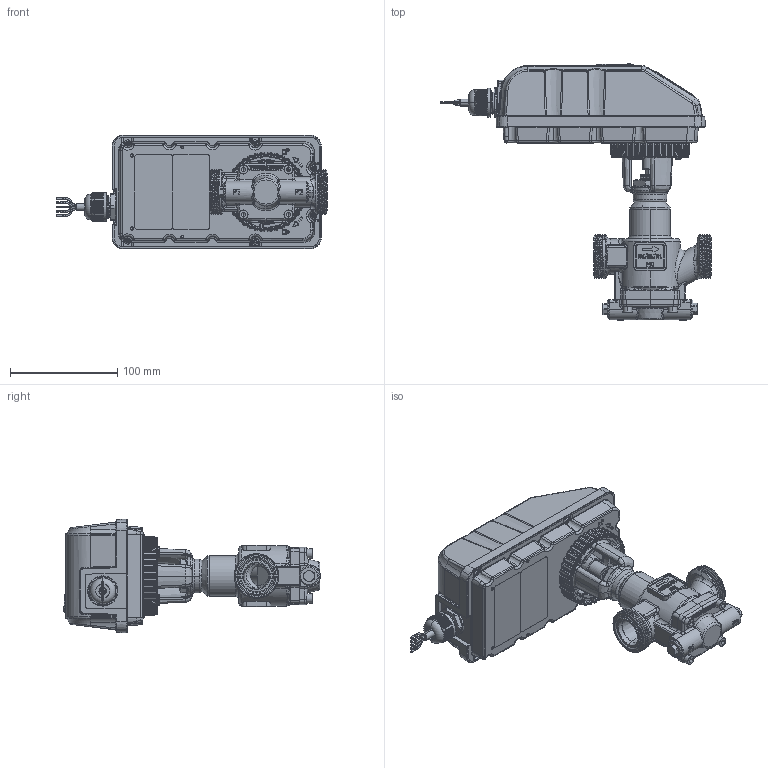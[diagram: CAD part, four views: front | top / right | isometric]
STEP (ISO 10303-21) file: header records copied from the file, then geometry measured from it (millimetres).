
FILE_DESCRIPTION (( 'STEP AP203' ), '1' );
FILE_NAME ('SM.1.1.P.3.0.0.I.STEP', '2025-09-23T11:52:57', ( '' ), ( '' ), 'SwSTEP 2.0', 'SolidWorks 2025', '' );
FILE_SCHEMA (( 'CONFIG_CONTROL_DESIGN' ));
Length unit declared in the file: millimetre
Products named in the file (1): SM.1.1.P.3.0.0.I
Bounding box: 251.96 x 239 x 105.86 mm (x, y, z)
Surface area: 155506.2 mm2 (no closed solid volume)
Topology: 0 solids, 86 shells, 3041 faces, 9172 edges, 6004 vertices
Faces by surface type: cylinder 978, bspline 680, plane 639, cone 321, torus 303, sphere 120
Entity records: 141923 total; most frequent: CARTESIAN_POINT 69860, ORIENTED_EDGE 15592, DIRECTION 13015, EDGE_CURVE 9020, VERTEX_POINT 6000, AXIS2_PLACEMENT_3D 5074, EDGE_LOOP 3202, ADVANCED_FACE 3041
